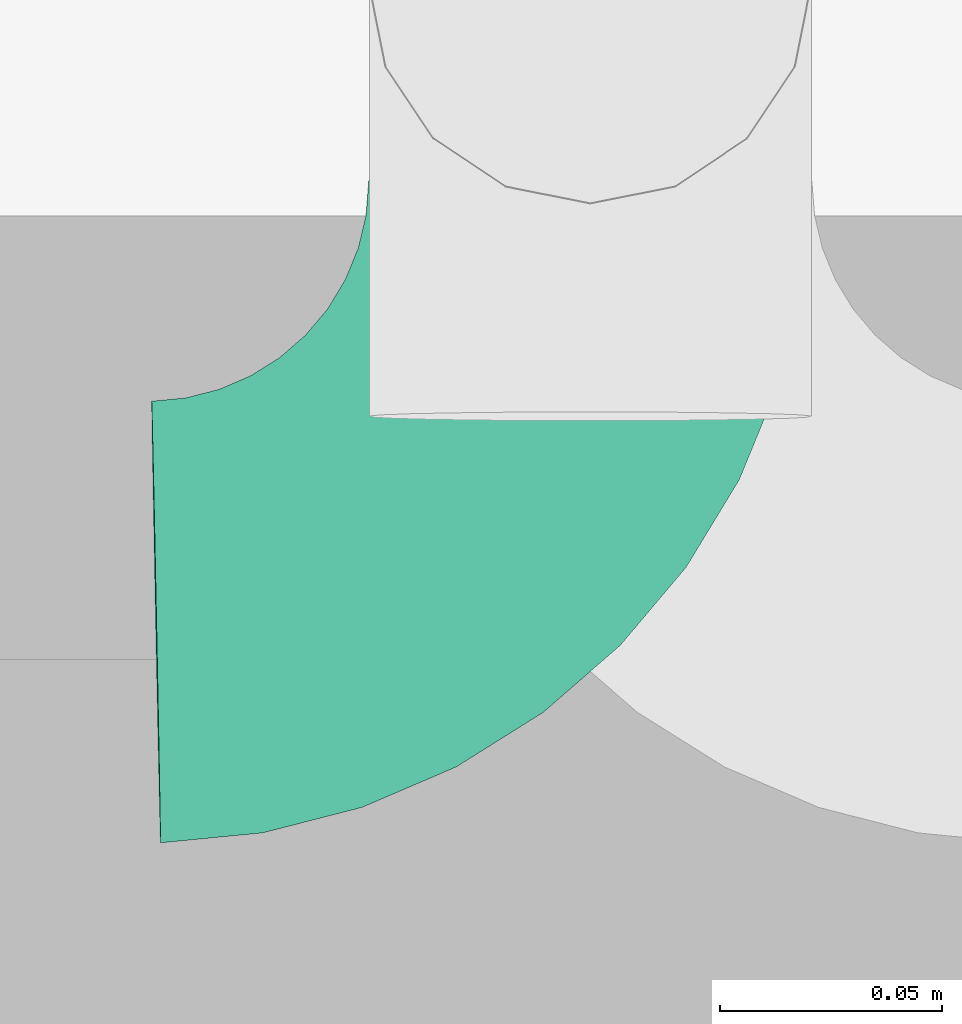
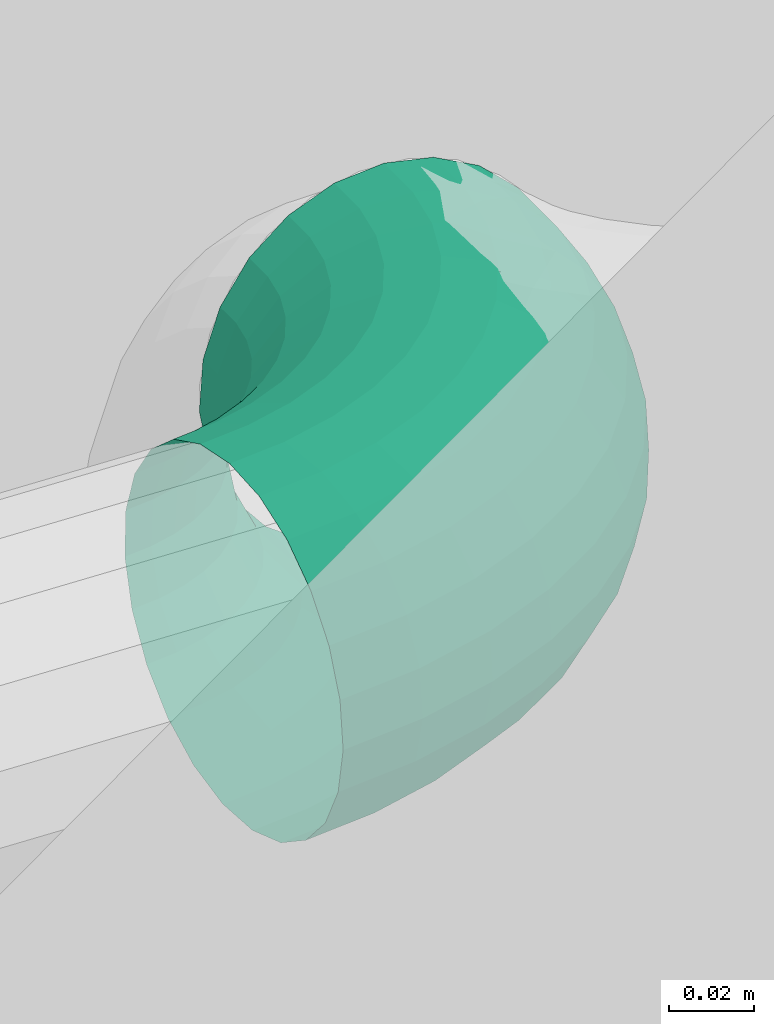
# One storey, part 101 of 108: 1 flow fitting.
"""IFC2X3 building model written with IfcOpenShell, lengths in metres."""

from ifc_helpers import new_model, entity, si_unit, converted_unit, derived_unit, money_unit, direction, frame, origin_with_axes, place, context, subcontext, project, spatial, open_shell, surface_model, material, type_object, element, save


model = new_model("IFC2X3")

# Units and contexts
model_context = context("Model", 3, precision=1e-05, world=origin_with_axes(), true_north=direction((0.0, 1.0)))
body_context = subcontext(model_context, "Body", "Model", "MODEL_VIEW", scale=1.0)
ifc_project = project(units=[si_unit("LENGTHUNIT", "METRE"), si_unit("AREAUNIT", "SQUARE_METRE"), si_unit("VOLUMEUNIT", "CUBIC_METRE"), si_unit("ABSORBEDDOSEUNIT", "GRAY"), si_unit("AMOUNTOFSUBSTANCEUNIT", "MOLE"), si_unit("DOSEEQUIVALENTUNIT", "SIEVERT"), si_unit("ELECTRICCAPACITANCEUNIT", "FARAD"), si_unit("ELECTRICCHARGEUNIT", "COULOMB"), si_unit("ELECTRICCONDUCTANCEUNIT", "SIEMENS"), si_unit("ELECTRICCURRENTUNIT", "AMPERE"), si_unit("ELECTRICRESISTANCEUNIT", "OHM"), si_unit("ELECTRICVOLTAGEUNIT", "VOLT"), si_unit("ENERGYUNIT", "JOULE"), si_unit("FORCEUNIT", "NEWTON"), si_unit("FREQUENCYUNIT", "HERTZ"), si_unit("ILLUMINANCEUNIT", "LUX"), si_unit("INDUCTANCEUNIT", "HENRY"), si_unit("LUMINOUSFLUXUNIT", "LUMEN"), si_unit("LUMINOUSINTENSITYUNIT", "CANDELA"), si_unit("MAGNETICFLUXDENSITYUNIT", "TESLA"), si_unit("MAGNETICFLUXUNIT", "WEBER"), si_unit("MASSUNIT", "GRAM"), converted_unit("PLANEANGLEUNIT", "degree", entity("IfcReal", 0.0174532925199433), si_unit("PLANEANGLEUNIT", "RADIAN"), dimensions=[0, 0, 0, 0, 0, 0, 0]), si_unit("POWERUNIT", "WATT"), si_unit("PRESSUREUNIT", "PASCAL"), si_unit("RADIOACTIVITYUNIT", "BECQUEREL"), si_unit("SOLIDANGLEUNIT", "STERADIAN"), si_unit("THERMODYNAMICTEMPERATUREUNIT", "KELVIN"), si_unit("TIMEUNIT", "SECOND"), derived_unit("ACCELERATIONUNIT", [(si_unit("LENGTHUNIT", "METRE"), 1), (si_unit("TIMEUNIT", "SECOND"), -2)]), derived_unit("ANGULARVELOCITYUNIT", [(converted_unit("PLANEANGLEUNIT", "degree", entity("IfcReal", 0.0174532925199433), si_unit("PLANEANGLEUNIT", "RADIAN"), dimensions=[0, 0, 0, 0, 0, 0, 0]), 1), (si_unit("TIMEUNIT", "SECOND"), -1)]), derived_unit("CURVATUREUNIT", [(converted_unit("PLANEANGLEUNIT", "degree", entity("IfcReal", 0.0174532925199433), si_unit("PLANEANGLEUNIT", "RADIAN"), dimensions=[0, 0, 0, 0, 0, 0, 0]), 1), (si_unit("LENGTHUNIT", "METRE"), -1)]), derived_unit("DYNAMICVISCOSITYUNIT", [(si_unit("PRESSUREUNIT", "PASCAL"), 1), (si_unit("TIMEUNIT", "SECOND"), 1)]), derived_unit("HEATFLUXDENSITYUNIT", [(si_unit("POWERUNIT", "WATT"), 1), (si_unit("LENGTHUNIT", "METRE"), -2)]), derived_unit("HEATINGVALUEUNIT", [(si_unit("ENERGYUNIT", "JOULE"), 1), (si_unit("MASSUNIT", "GRAM"), -1)]), derived_unit("INTEGERCOUNTRATEUNIT", [(si_unit("TIMEUNIT", "SECOND"), -1)]), derived_unit("IONCONCENTRATIONUNIT", [(si_unit("MASSUNIT", "GRAM"), 1), (si_unit("VOLUMEUNIT", "CUBIC_METRE"), -1)]), derived_unit("ISOTHERMALMOISTURECAPACITYUNIT", [(si_unit("VOLUMEUNIT", "CUBIC_METRE"), 1), (si_unit("MASSUNIT", "GRAM"), -1)]), derived_unit("KINEMATICVISCOSITYUNIT", [(si_unit("AREAUNIT", "SQUARE_METRE"), 1), (si_unit("TIMEUNIT", "SECOND"), -1)]), derived_unit("LINEARFORCEUNIT", [(si_unit("FORCEUNIT", "NEWTON"), 1), (si_unit("LENGTHUNIT", "METRE"), -1)]), derived_unit("LINEARMOMENTUNIT", [(si_unit("FORCEUNIT", "NEWTON"), 1), (si_unit("LENGTHUNIT", "METRE"), -1)]), derived_unit("LINEARSTIFFNESSUNIT", [(si_unit("FORCEUNIT", "NEWTON"), 1), (si_unit("LENGTHUNIT", "METRE"), -1)]), derived_unit("LINEARVELOCITYUNIT", [(si_unit("LENGTHUNIT", "METRE"), 1), (si_unit("TIMEUNIT", "SECOND"), -1)]), derived_unit("LUMINOUSINTENSITYDISTRIBUTIONUNIT", [(si_unit("LUMINOUSINTENSITYUNIT", "CANDELA"), 1), (si_unit("LUMINOUSFLUXUNIT", "LUMEN"), -1)]), derived_unit("MASSDENSITYUNIT", [(si_unit("MASSUNIT", "GRAM"), 1), (si_unit("VOLUMEUNIT", "CUBIC_METRE"), -1)]), derived_unit("MASSFLOWRATEUNIT", [(si_unit("MASSUNIT", "GRAM"), 1), (si_unit("TIMEUNIT", "SECOND"), -1)]), derived_unit("MASSPERLENGTHUNIT", [(si_unit("MASSUNIT", "GRAM"), 1), (si_unit("LENGTHUNIT", "METRE"), -1)]), derived_unit("MODULUSOFELASTICITYUNIT", [(si_unit("FORCEUNIT", "NEWTON"), 1), (si_unit("AREAUNIT", "SQUARE_METRE"), -1)]), derived_unit("MODULUSOFLINEARSUBGRADEREACTIONUNIT", [(si_unit("FORCEUNIT", "NEWTON"), 1), (si_unit("LENGTHUNIT", "METRE"), -2)]), derived_unit("MODULUSOFROTATIONALSUBGRADEREACTIONUNIT", [(si_unit("FORCEUNIT", "NEWTON"), 1), (si_unit("LENGTHUNIT", "METRE"), 1)]), derived_unit("MODULUSOFSUBGRADEREACTIONUNIT", [(si_unit("FORCEUNIT", "NEWTON"), 1), (si_unit("VOLUMEUNIT", "CUBIC_METRE"), -1)]), derived_unit("MOISTUREDIFFUSIVITYUNIT", [(si_unit("VOLUMEUNIT", "CUBIC_METRE"), 1), (si_unit("TIMEUNIT", "SECOND"), -1)]), derived_unit("MOLECULARWEIGHTUNIT", [(si_unit("MASSUNIT", "GRAM"), 1), (si_unit("AMOUNTOFSUBSTANCEUNIT", "MOLE"), -1)]), derived_unit("PLANARFORCEUNIT", [(si_unit("FORCEUNIT", "NEWTON"), 1), (si_unit("LENGTHUNIT", "METRE"), -2)]), derived_unit("ROTATIONALFREQUENCYUNIT", [(si_unit("TIMEUNIT", "SECOND"), -1)]), derived_unit("ROTATIONALMASSUNIT", [(si_unit("MASSUNIT", "GRAM"), 1), (si_unit("LENGTHUNIT", "METRE"), 2)]), derived_unit("ROTATIONALSTIFFNESSUNIT", [(si_unit("FORCEUNIT", "NEWTON"), 1), (si_unit("LENGTHUNIT", "METRE"), 1), (converted_unit("PLANEANGLEUNIT", "degree", entity("IfcReal", 0.0174532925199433), si_unit("PLANEANGLEUNIT", "RADIAN"), dimensions=[0, 0, 0, 0, 0, 0, 0]), -1)]), derived_unit("SECTIONAREAINTEGRALUNIT", [(si_unit("LENGTHUNIT", "METRE"), 5)]), derived_unit("SECTIONMODULUSUNIT", [(si_unit("LENGTHUNIT", "METRE"), 3)]), derived_unit("SHEARMODULUSUNIT", [(si_unit("FORCEUNIT", "NEWTON"), 1), (si_unit("AREAUNIT", "SQUARE_METRE"), -1)]), derived_unit("SOUNDPOWERUNIT", [(si_unit("ENERGYUNIT", "JOULE"), 1), (si_unit("TIMEUNIT", "SECOND"), -1)]), derived_unit("SPECIFICHEATCAPACITYUNIT", [(si_unit("FORCEUNIT", "NEWTON"), 1), (si_unit("MASSUNIT", "GRAM"), -1), (si_unit("THERMODYNAMICTEMPERATUREUNIT", "KELVIN"), -1)]), derived_unit("TEMPERATUREGRADIENTUNIT", [(si_unit("THERMODYNAMICTEMPERATUREUNIT", "KELVIN"), 1), (si_unit("LENGTHUNIT", "METRE"), -1)]), derived_unit("THERMALADMITTANCEUNIT", [(si_unit("POWERUNIT", "WATT"), 1), (si_unit("AREAUNIT", "SQUARE_METRE"), -1), (si_unit("THERMODYNAMICTEMPERATUREUNIT", "KELVIN"), -1)]), derived_unit("THERMALCONDUCTANCEUNIT", [(si_unit("POWERUNIT", "WATT"), 1), (si_unit("LENGTHUNIT", "METRE"), -1), (si_unit("THERMODYNAMICTEMPERATUREUNIT", "KELVIN"), -1)]), derived_unit("THERMALEXPANSIONCOEFFICIENTUNIT", [(si_unit("THERMODYNAMICTEMPERATUREUNIT", "KELVIN"), -1)]), derived_unit("THERMALRESISTANCEUNIT", [(si_unit("AREAUNIT", "SQUARE_METRE"), 1), (si_unit("POWERUNIT", "WATT"), -1)]), derived_unit("THERMALTRANSMITTANCEUNIT", [(si_unit("POWERUNIT", "WATT"), 1), (si_unit("AREAUNIT", "SQUARE_METRE"), -1), (si_unit("THERMODYNAMICTEMPERATUREUNIT", "KELVIN"), -1)]), derived_unit("TORQUEUNIT", [(si_unit("FORCEUNIT", "NEWTON"), 1), (si_unit("LENGTHUNIT", "METRE"), 1)]), derived_unit("VAPORPERMEABILITYUNIT", [(si_unit("MASSUNIT", "GRAM"), 1), (si_unit("TIMEUNIT", "SECOND"), -1)]), derived_unit("VOLUMETRICFLOWRATEUNIT", [(si_unit("VOLUMEUNIT", "CUBIC_METRE"), 1), (si_unit("TIMEUNIT", "SECOND"), -1)]), derived_unit("WARPINGCONSTANTUNIT", [(si_unit("LENGTHUNIT", "METRE"), 6)]), derived_unit("WARPINGMOMENTUNIT", [(si_unit("FORCEUNIT", "NEWTON"), 1), (si_unit("LENGTHUNIT", "METRE"), 2)]), money_unit("GBP")], contexts=[model_context])

# Site, building, storey
site_placement = place(None, origin_with_axes())
site = spatial("IfcSite", under=ifc_project, at=site_placement, Name="Site", CompositionType="ELEMENT")
building_placement = place(site_placement, origin_with_axes())
building = spatial("IfcBuilding", under=site, at=building_placement, Name="Building01", CompositionType="ELEMENT")
storey_placement = place(building_placement, origin_with_axes())
storey = spatial("IfcBuildingStorey", under=building, at=storey_placement, Name="GF", CompositionType="ELEMENT", Elevation=0.0)

# Flow fitting
ifc_material = material(Name="M_BSUK_ColdWater")
pipe_fitting_type = type_object("IfcPipeFittingType", Name="M-BmpElbow-DefaultElbow", PredefinedType="BEND")
flow_fitting_placement = place(storey_placement, frame((22.216022, 14.905103, 15.429205), z_axis=(1.0, 0.0, 0.0), x_axis=(0.0, -0.99414865, 0.10802068)))
element("IfcFlowFitting", 1, at=flow_fitting_placement, inside=storey, type_object=pipe_fitting_type, material=ifc_material, Name="M-BmpElbow-DefaultElbow", ObjectType="M-BmpElbow-DefaultElbow", context=body_context, shape_type="SurfaceModel", body=[
    surface_model("IfcShellBasedSurfaceModel", [(0.008009, -0.01349, -0.048768), (0.0, -0.01349, -0.048146), (0.0, 0.0, -0.05), (0.007723, 0.0, -0.0506), (0.015826, -0.01349, -0.05062), (0.015261, 0.0, -0.052386), (0.023264, -0.01349, -0.053657), (0.022432, 0.0, -0.055314), (0.030143, -0.01349, -0.057807), (0.029065, 0.0, -0.059315), (0.036298, -0.01349, -0.062969), (0.035, 0.0, -0.064293), (0.041582, -0.01349, -0.06902), (0.040095, 0.0, -0.070127), (0.045868, -0.01349, -0.075814), (0.044228, 0.0, -0.076679), (0.049054, -0.01349, -0.083189), (0.0473, 0.0, -0.08379), (0.051061, -0.01349, -0.090968), (0.049236, 0.0, -0.091291), (0.051844, -0.01349, -0.098963), (0.04999, 0.0, -0.099), (0.008847, -0.025979, -0.043408), (0.0, -0.025979, -0.042721), (0.017482, -0.025979, -0.045454), (0.025697, -0.025979, -0.048809), (0.033296, -0.025979, -0.053392), (0.040095, -0.025979, -0.059095), (0.045932, -0.025979, -0.065779), (0.050667, -0.025979, -0.073284), (0.054185, -0.025979, -0.081431), (0.056403, -0.025979, -0.090023), (0.057268, -0.025979, -0.098855), (0.010175, -0.036542, -0.034918), (0.0, -0.036542, -0.034128), (0.020105, -0.036542, -0.037271), (0.029553, -0.036542, -0.041129), (0.038291, -0.036542, -0.0464), (0.046111, -0.036542, -0.052958), (0.052823, -0.036542, -0.060645), (0.058268, -0.036542, -0.069276), (0.062315, -0.036542, -0.078645), (0.064865, -0.036542, -0.088526), (0.065859, -0.036542, -0.098683), (0.011893, -0.044394, -0.023927), (0.0, -0.044394, -0.023003), (0.0235, -0.044394, -0.026677), (0.034544, -0.044394, -0.031187), (0.044758, -0.044394, -0.037348), (0.053898, -0.044394, -0.045013), (0.061744, -0.044394, -0.053998), (0.068109, -0.044394, -0.064087), (0.072838, -0.044394, -0.075038), (0.07582, -0.044394, -0.086588), (0.076981, -0.044394, -0.09846), (0.013875, -0.048954, -0.011251), (0.0, -0.048954, -0.010173), (0.027416, -0.048954, -0.014459), (0.0403, -0.048954, -0.01972), (0.052216, -0.048954, -0.026908), (0.062879, -0.048954, -0.035851), (0.072033, -0.048954, -0.046333), (0.079458, -0.048954, -0.058103), (0.084976, -0.048954, -0.070879), (0.088454, -0.048954, -0.084353), (0.089809, -0.048954, -0.098204), (0.015973, -0.049883, 0.002171), (0.0, -0.049883, 0.003412), (0.031562, -0.049883, -0.001522), (0.046394, -0.049883, -0.007579), (0.060113, -0.049883, -0.015854), (0.072389, -0.049883, -0.026149), (0.082927, -0.049883, -0.038216), (0.091475, -0.049883, -0.051767), (0.097827, -0.049883, -0.066475), (0.101831, -0.049883, -0.081987), (0.103391, -0.049883, -0.097932), (0.018032, -0.047113, 0.015343), (0.0, -0.047113, 0.016744), (0.035632, -0.047113, 0.011174), (0.052376, -0.047113, 0.004336), (0.067863, -0.047113, -0.005006), (0.081721, -0.047113, -0.016628), (0.093618, -0.047113, -0.030251), (0.103268, -0.047113, -0.045548), (0.110439, -0.047113, -0.062153), (0.114959, -0.047113, -0.079665), (0.116721, -0.047113, -0.097665), (0.0199, -0.040848, 0.027288), (0.0, -0.040848, 0.028834), (0.039322, -0.040848, 0.022687), (0.0578, -0.040848, 0.015141), (0.074891, -0.040848, 0.004831), (0.090184, -0.040848, -0.007994), (0.103313, -0.040848, -0.023028), (0.113962, -0.040848, -0.039909), (0.121876, -0.040848, -0.058233), (0.126865, -0.040848, -0.077559), (0.128808, -0.040848, -0.097424), (0.021437, -0.031554, 0.03712), (0.0, -0.031554, 0.038786), (0.042359, -0.031554, 0.032163), (0.062264, -0.031554, 0.024035), (0.080675, -0.031554, 0.012929), (0.09715, -0.031554, -0.000887), (0.111293, -0.031554, -0.017083), (0.122765, -0.031554, -0.035268), (0.13129, -0.031554, -0.055007), (0.136664, -0.031554, -0.075826), (0.138758, -0.031554, -0.097225), (0.022529, -0.01992, 0.04411), (0.0, -0.01992, 0.045861), (0.044518, -0.01992, 0.038901), (0.065438, -0.01992, 0.030358), (0.084788, -0.01992, 0.018686), (0.102103, -0.01992, 0.004165), (0.116966, -0.01992, -0.012856), (0.129023, -0.01992, -0.031968), (0.137983, -0.01992, -0.052713), (0.143631, -0.01992, -0.074593), (0.145831, -0.01992, -0.097083), (0.023097, -0.006808, 0.04774), (0.0, -0.006808, 0.049534), (0.045639, -0.006808, 0.042399), (0.067087, -0.006808, 0.033641), (0.086924, -0.006808, 0.021675), (0.104674, -0.006808, 0.006789), (0.119912, -0.006808, -0.010661), (0.132273, -0.006808, -0.030254), (0.141458, -0.006808, -0.051522), (0.147248, -0.006808, -0.073953), (0.149504, -0.006808, -0.09701), (0.023097, 0.006808, 0.04774), (0.0, 0.006808, 0.049534), (0.045639, 0.006808, 0.042399), (0.067087, 0.006808, 0.033641), (0.086924, 0.006808, 0.021675), (0.104674, 0.006808, 0.006789), (0.119912, 0.006808, -0.010661), (0.132273, 0.006808, -0.030254), (0.141458, 0.006808, -0.051522), (0.147248, 0.006808, -0.073953), (0.149504, 0.006808, -0.09701), (0.022529, 0.01992, 0.04411), (0.0, 0.01992, 0.045861), (0.044518, 0.01992, 0.038901), (0.065438, 0.01992, 0.030358), (0.084788, 0.01992, 0.018686), (0.102103, 0.01992, 0.004165), (0.116966, 0.01992, -0.012856), (0.129023, 0.01992, -0.031968), (0.137983, 0.01992, -0.052713), (0.143631, 0.01992, -0.074593), (0.145831, 0.01992, -0.097083), (0.021437, 0.031554, 0.03712), (0.0, 0.031554, 0.038786), (0.042359, 0.031554, 0.032163), (0.062264, 0.031554, 0.024035), (0.080675, 0.031554, 0.012929), (0.09715, 0.031554, -0.000887), (0.111293, 0.031554, -0.017083), (0.122765, 0.031554, -0.035268), (0.13129, 0.031554, -0.055007), (0.136664, 0.031554, -0.075826), (0.138758, 0.031554, -0.097225), (0.0199, 0.040848, 0.027288), (0.0, 0.040848, 0.028834), (0.039322, 0.040848, 0.022687), (0.0578, 0.040848, 0.015141), (0.074891, 0.040848, 0.004831), (0.090184, 0.040848, -0.007994), (0.103313, 0.040848, -0.023028), (0.113962, 0.040848, -0.039909), (0.121876, 0.040848, -0.058233), (0.126865, 0.040848, -0.077559), (0.128808, 0.040848, -0.097424), (0.018032, 0.047113, 0.015343), (0.0, 0.047113, 0.016744), (0.035632, 0.047113, 0.011174), (0.052376, 0.047113, 0.004336), (0.067863, 0.047113, -0.005006), (0.081721, 0.047113, -0.016628), (0.093618, 0.047113, -0.030251), (0.103268, 0.047113, -0.045548), (0.110439, 0.047113, -0.062153), (0.114959, 0.047113, -0.079665), (0.116721, 0.047113, -0.097665), (0.015973, 0.049883, 0.002171), (0.0, 0.049883, 0.003412), (0.031562, 0.049883, -0.001522), (0.046394, 0.049883, -0.007579), (0.060113, 0.049883, -0.015854), (0.072389, 0.049883, -0.026149), (0.082927, 0.049883, -0.038216), (0.091475, 0.049883, -0.051767), (0.097827, 0.049883, -0.066475), (0.101831, 0.049883, -0.081987), (0.103391, 0.049883, -0.097932), (0.013875, 0.048954, -0.011251), (0.0, 0.048954, -0.010173), (0.027416, 0.048954, -0.014459), (0.0403, 0.048954, -0.01972), (0.052216, 0.048954, -0.026908), (0.062879, 0.048954, -0.035851), (0.072033, 0.048954, -0.046333), (0.079458, 0.048954, -0.058103), (0.084976, 0.048954, -0.070879), (0.088454, 0.048954, -0.084353), (0.089809, 0.048954, -0.098204), (0.011893, 0.044394, -0.023927), (0.0, 0.044394, -0.023003), (0.0235, 0.044394, -0.026677), (0.034544, 0.044394, -0.031187), (0.044758, 0.044394, -0.037348), (0.053898, 0.044394, -0.045013), (0.061744, 0.044394, -0.053998), (0.068109, 0.044394, -0.064087), (0.072838, 0.044394, -0.075038), (0.07582, 0.044394, -0.086588), (0.076981, 0.044394, -0.09846), (0.010175, 0.036542, -0.034918), (0.0, 0.036542, -0.034128), (0.020105, 0.036542, -0.037271), (0.029553, 0.036542, -0.041129), (0.038291, 0.036542, -0.0464), (0.046111, 0.036542, -0.052958), (0.052823, 0.036542, -0.060645), (0.058268, 0.036542, -0.069276), (0.062315, 0.036542, -0.078645), (0.064865, 0.036542, -0.088526), (0.065859, 0.036542, -0.098683), (0.008847, 0.025979, -0.043408), (0.0, 0.025979, -0.042721), (0.017482, 0.025979, -0.045454), (0.025697, 0.025979, -0.048809), (0.033296, 0.025979, -0.053392), (0.040095, 0.025979, -0.059095), (0.045932, 0.025979, -0.065779), (0.050667, 0.025979, -0.073284), (0.054185, 0.025979, -0.081431), (0.056403, 0.025979, -0.090023), (0.057268, 0.025979, -0.098855), (0.008009, 0.01349, -0.048768), (0.0, 0.01349, -0.048146), (0.015826, 0.01349, -0.05062), (0.023264, 0.01349, -0.053657), (0.030143, 0.01349, -0.057807), (0.036298, 0.01349, -0.062969), (0.041582, 0.01349, -0.06902), (0.045868, 0.01349, -0.075814), (0.049054, 0.01349, -0.083189), (0.051061, 0.01349, -0.090968), (0.051844, 0.01349, -0.098963)], [open_shell([[[0, 1, 2, 3]], [[4, 0, 3, 5]], [[6, 4, 5, 7]], [[8, 6, 7, 9]], [[10, 8, 9, 11]], [[12, 10, 11, 13]], [[14, 12, 13, 15]], [[16, 14, 15, 17]], [[18, 16, 17, 19]], [[20, 18, 19, 21]], [[22, 23, 1, 0]], [[24, 22, 0, 4]], [[25, 24, 4, 6]], [[26, 25, 6, 8]], [[27, 26, 8, 10]], [[28, 27, 10, 12]], [[29, 28, 12, 14]], [[30, 29, 14, 16]], [[31, 30, 16, 18]], [[32, 31, 18, 20]], [[33, 34, 23, 22]], [[35, 33, 22, 24]], [[36, 35, 24, 25]], [[37, 36, 25, 26]], [[38, 37, 26, 27]], [[39, 38, 27, 28]], [[40, 39, 28, 29]], [[41, 40, 29, 30]], [[42, 41, 30, 31]], [[43, 42, 31, 32]], [[44, 45, 34, 33]], [[46, 44, 33, 35]], [[47, 46, 35, 36]], [[48, 47, 36, 37]], [[49, 48, 37, 38]], [[50, 49, 38, 39]], [[51, 50, 39, 40]], [[52, 51, 40, 41]], [[53, 52, 41, 42]], [[54, 53, 42, 43]], [[55, 56, 45, 44]], [[57, 55, 44, 46]], [[58, 57, 46, 47]], [[59, 58, 47, 48]], [[60, 59, 48, 49]], [[61, 60, 49, 50]], [[62, 61, 50, 51]], [[63, 62, 51, 52]], [[64, 63, 52, 53]], [[65, 64, 53, 54]], [[66, 67, 56, 55]], [[68, 66, 55, 57]], [[69, 68, 57, 58]], [[70, 69, 58, 59]], [[71, 70, 59, 60]], [[72, 71, 60, 61]], [[73, 72, 61, 62]], [[74, 73, 62, 63]], [[75, 74, 63, 64]], [[76, 75, 64, 65]], [[77, 78, 67, 66]], [[79, 77, 66, 68]], [[80, 79, 68, 69]], [[81, 80, 69, 70]], [[82, 81, 70, 71]], [[83, 82, 71, 72]], [[84, 83, 72, 73]], [[85, 84, 73, 74]], [[86, 85, 74, 75]], [[87, 86, 75, 76]], [[88, 89, 78, 77]], [[90, 88, 77, 79]], [[91, 90, 79, 80]], [[92, 91, 80, 81]], [[93, 92, 81, 82]], [[94, 93, 82, 83]], [[95, 94, 83, 84]], [[96, 95, 84, 85]], [[97, 96, 85, 86]], [[98, 97, 86, 87]], [[99, 100, 89, 88]], [[101, 99, 88, 90]], [[102, 101, 90, 91]], [[103, 102, 91, 92]], [[104, 103, 92, 93]], [[105, 104, 93, 94]], [[106, 105, 94, 95]], [[107, 106, 95, 96]], [[108, 107, 96, 97]], [[109, 108, 97, 98]], [[110, 111, 100, 99]], [[112, 110, 99, 101]], [[113, 112, 101, 102]], [[114, 113, 102, 103]], [[115, 114, 103, 104]], [[116, 115, 104, 105]], [[117, 116, 105, 106]], [[118, 117, 106, 107]], [[119, 118, 107, 108]], [[120, 119, 108, 109]], [[121, 122, 111, 110]], [[123, 121, 110, 112]], [[124, 123, 112, 113]], [[125, 124, 113, 114]], [[126, 125, 114, 115]], [[127, 126, 115, 116]], [[128, 127, 116, 117]], [[129, 128, 117, 118]], [[130, 129, 118, 119]], [[131, 130, 119, 120]], [[132, 133, 122, 121]], [[134, 132, 121, 123]], [[135, 134, 123, 124]], [[136, 135, 124, 125]], [[137, 136, 125, 126]], [[138, 137, 126, 127]], [[139, 138, 127, 128]], [[140, 139, 128, 129]], [[141, 140, 129, 130]], [[142, 141, 130, 131]], [[143, 144, 133, 132]], [[145, 143, 132, 134]], [[146, 145, 134, 135]], [[147, 146, 135, 136]], [[148, 147, 136, 137]], [[149, 148, 137, 138]], [[150, 149, 138, 139]], [[151, 150, 139, 140]], [[152, 151, 140, 141]], [[153, 152, 141, 142]], [[154, 155, 144, 143]], [[156, 154, 143, 145]], [[157, 156, 145, 146]], [[158, 157, 146, 147]], [[159, 158, 147, 148]], [[160, 159, 148, 149]], [[161, 160, 149, 150]], [[162, 161, 150, 151]], [[163, 162, 151, 152]], [[164, 163, 152, 153]], [[165, 166, 155, 154]], [[167, 165, 154, 156]], [[168, 167, 156, 157]], [[169, 168, 157, 158]], [[170, 169, 158, 159]], [[171, 170, 159, 160]], [[172, 171, 160, 161]], [[173, 172, 161, 162]], [[174, 173, 162, 163]], [[175, 174, 163, 164]], [[176, 177, 166, 165]], [[178, 176, 165, 167]], [[179, 178, 167, 168]], [[180, 179, 168, 169]], [[181, 180, 169, 170]], [[182, 181, 170, 171]], [[183, 182, 171, 172]], [[184, 183, 172, 173]], [[185, 184, 173, 174]], [[186, 185, 174, 175]], [[187, 188, 177, 176]], [[189, 187, 176, 178]], [[190, 189, 178, 179]], [[191, 190, 179, 180]], [[192, 191, 180, 181]], [[193, 192, 181, 182]], [[194, 193, 182, 183]], [[195, 194, 183, 184]], [[196, 195, 184, 185]], [[197, 196, 185, 186]], [[198, 199, 188, 187]], [[200, 198, 187, 189]], [[201, 200, 189, 190]], [[202, 201, 190, 191]], [[203, 202, 191, 192]], [[204, 203, 192, 193]], [[205, 204, 193, 194]], [[206, 205, 194, 195]], [[207, 206, 195, 196]], [[208, 207, 196, 197]], [[209, 210, 199, 198]], [[211, 209, 198, 200]], [[212, 211, 200, 201]], [[213, 212, 201, 202]], [[214, 213, 202, 203]], [[215, 214, 203, 204]], [[216, 215, 204, 205]], [[217, 216, 205, 206]], [[218, 217, 206, 207]], [[219, 218, 207, 208]], [[220, 221, 210, 209]], [[222, 220, 209, 211]], [[223, 222, 211, 212]], [[224, 223, 212, 213]], [[225, 224, 213, 214]], [[226, 225, 214, 215]], [[227, 226, 215, 216]], [[228, 227, 216, 217]], [[229, 228, 217, 218]], [[230, 229, 218, 219]], [[231, 232, 221, 220]], [[233, 231, 220, 222]], [[234, 233, 222, 223]], [[235, 234, 223, 224]], [[236, 235, 224, 225]], [[237, 236, 225, 226]], [[238, 237, 226, 227]], [[239, 238, 227, 228]], [[240, 239, 228, 229]], [[241, 240, 229, 230]], [[242, 243, 232, 231]], [[244, 242, 231, 233]], [[245, 244, 233, 234]], [[246, 245, 234, 235]], [[247, 246, 235, 236]], [[248, 247, 236, 237]], [[249, 248, 237, 238]], [[250, 249, 238, 239]], [[251, 250, 239, 240]], [[252, 251, 240, 241]], [[3, 2, 243, 242]], [[5, 3, 242, 244]], [[7, 5, 244, 245]], [[9, 7, 245, 246]], [[11, 9, 246, 247]], [[13, 11, 247, 248]], [[15, 13, 248, 249]], [[17, 15, 249, 250]], [[19, 17, 250, 251]], [[21, 19, 251, 252]]])]),
])

save(model, "model.ifc")
